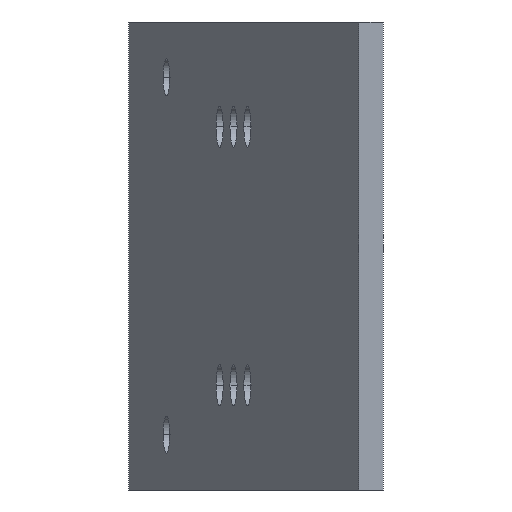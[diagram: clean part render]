
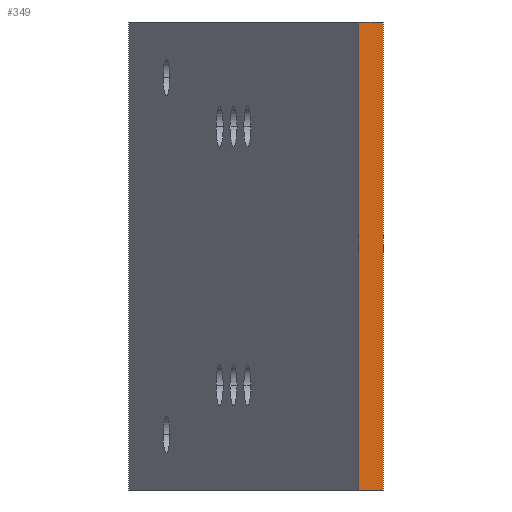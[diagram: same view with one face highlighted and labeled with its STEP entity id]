
A CAD part, front view. The second image highlights one B-rep face of the part: STEP entity #349.
In plain terms, the highlighted planar face has unit normal (0, -1, 0).
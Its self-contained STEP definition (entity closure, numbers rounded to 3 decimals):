
#87 = DIRECTION ( 'NONE',  ( 1., 0., 0. ) ) ;
#152 = VECTOR ( 'NONE', #348, 1000. ) ;
#172 = EDGE_LOOP ( 'NONE', ( #435, #579, #1336, #1104 ) ) ;
#184 = CARTESIAN_POINT ( 'NONE',  ( 20.538, -87.709, 0.5 ) ) ;
#223 = VERTEX_POINT ( 'NONE', #1497 ) ;
#225 = DIRECTION ( 'NONE',  ( 0., 0., -1. ) ) ;
#239 = DIRECTION ( 'NONE',  ( 0., -1., 0. ) ) ;
#299 = VERTEX_POINT ( 'NONE', #1393 ) ;
#308 = EDGE_CURVE ( 'NONE', #223, #454, #1259, .T. ) ;
#348 = DIRECTION ( 'NONE',  ( 0., 0., -1. ) ) ;
#349 = ADVANCED_FACE ( 'NONE', ( #583 ), #1043, .T. ) ;
#435 = ORIENTED_EDGE ( 'NONE', *, *, #1003, .F. ) ;
#454 = VERTEX_POINT ( 'NONE', #184 ) ;
#549 = CARTESIAN_POINT ( 'NONE',  ( 20.538, -87.709, 38.5 ) ) ;
#579 = ORIENTED_EDGE ( 'NONE', *, *, #308, .F. ) ;
#581 = VECTOR ( 'NONE', #1228, 1000. ) ;
#583 = FACE_OUTER_BOUND ( 'NONE', #172, .T. ) ;
#626 = DIRECTION ( 'NONE',  ( -1., 0., 0. ) ) ;
#664 = CARTESIAN_POINT ( 'NONE',  ( 18.538, -87.709, 39. ) ) ;
#705 = VECTOR ( 'NONE', #626, 1000. ) ;
#745 = LINE ( 'NONE', #967, #705 ) ;
#811 = AXIS2_PLACEMENT_3D ( 'NONE', #815, #239, #225 ) ;
#815 = CARTESIAN_POINT ( 'NONE',  ( 20.538, -87.709, 39. ) ) ;
#821 = EDGE_CURVE ( 'NONE', #299, #846, #1341, .T. ) ;
#846 = VERTEX_POINT ( 'NONE', #1491 ) ;
#967 = CARTESIAN_POINT ( 'NONE',  ( 20.538, -87.709, 0.5 ) ) ;
#1003 = EDGE_CURVE ( 'NONE', #454, #846, #745, .T. ) ;
#1039 = CARTESIAN_POINT ( 'NONE',  ( 20.538, -87.709, 39. ) ) ;
#1043 = PLANE ( 'NONE',  #811 ) ;
#1064 = EDGE_CURVE ( 'NONE', #299, #223, #1118, .T. ) ;
#1104 = ORIENTED_EDGE ( 'NONE', *, *, #821, .T. ) ;
#1118 = LINE ( 'NONE', #549, #1140 ) ;
#1140 = VECTOR ( 'NONE', #87, 1000. ) ;
#1228 = DIRECTION ( 'NONE',  ( 0., 0., -1. ) ) ;
#1259 = LINE ( 'NONE', #1039, #152 ) ;
#1336 = ORIENTED_EDGE ( 'NONE', *, *, #1064, .F. ) ;
#1341 = LINE ( 'NONE', #664, #581 ) ;
#1393 = CARTESIAN_POINT ( 'NONE',  ( 18.538, -87.709, 38.5 ) ) ;
#1491 = CARTESIAN_POINT ( 'NONE',  ( 18.538, -87.709, 0.5 ) ) ;
#1497 = CARTESIAN_POINT ( 'NONE',  ( 20.538, -87.709, 38.5 ) ) ;
